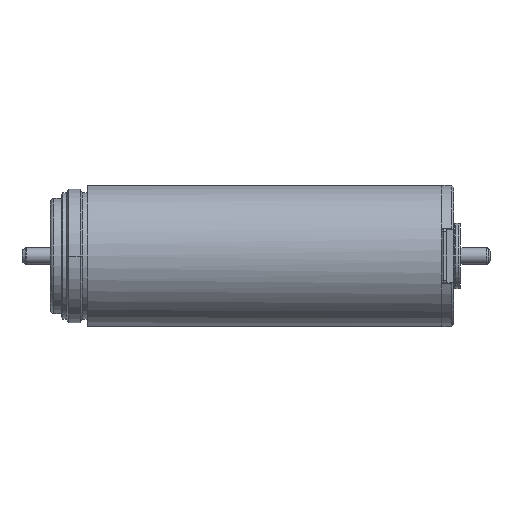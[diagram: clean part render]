
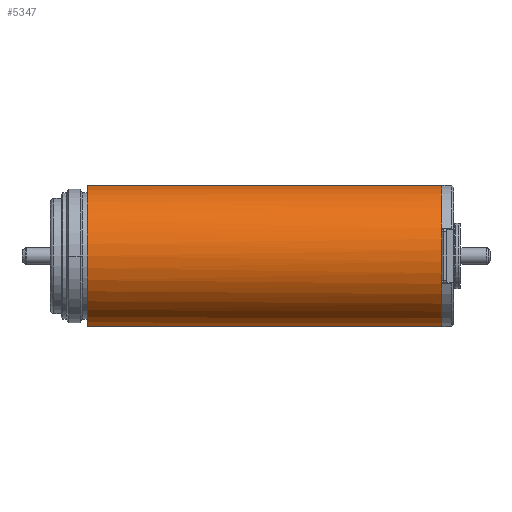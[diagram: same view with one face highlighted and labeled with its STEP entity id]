
A CAD part, front view. The second image highlights one B-rep face of the part: STEP entity #5347.
In plain terms, the highlighted cylindrical face has radius 6.45 mm (diameter 12.9 mm), a partial arc.
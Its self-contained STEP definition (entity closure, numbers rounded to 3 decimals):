
#1310=CARTESIAN_POINT('',(34.7,0.,0.));
#1311=DIRECTION('',(1.,0.,0.));
#1312=DIRECTION('',(0.,-0.919,0.394));
#1313=AXIS2_PLACEMENT_3D('',#1310,#1311,#1312);
#1444=CARTESIAN_POINT('',(34.7,0.,0.));
#1445=DIRECTION('',(1.,0.,0.));
#1446=DIRECTION('',(0.,0.,1.));
#1447=AXIS2_PLACEMENT_3D('',#1444,#1445,#1446);
#1452=CARTESIAN_POINT('',(34.7,0.,0.));
#1453=DIRECTION('',(1.,0.,0.));
#1454=DIRECTION('',(0.,-0.919,-0.394));
#1455=AXIS2_PLACEMENT_3D('',#1452,#1453,#1454);
#1460=DIRECTION('',(-1.,0.,0.));
#1461=VECTOR('',#1460,32.35);
#1462=CARTESIAN_POINT('',(34.7,0.,-6.45));
#1463=LINE('',#1462,#1461);
#1467=DIRECTION('',(1.,0.,0.));
#1468=VECTOR('',#1467,32.35);
#1469=CARTESIAN_POINT('',(2.35,0.,6.45));
#1470=LINE('',#1469,#1468);
#1482=CARTESIAN_POINT('',(2.35,0.,0.));
#1483=DIRECTION('',(1.,0.,0.));
#1484=DIRECTION('',(0.,0.,1.));
#1485=AXIS2_PLACEMENT_3D('',#1482,#1483,#1484);
#3821=CARTESIAN_POINT('',(2.35,0.,-6.45));
#3822=CARTESIAN_POINT('',(2.35,0.,6.45));
#3823=VERTEX_POINT('',#3821);
#3824=VERTEX_POINT('',#3822);
#4111=CARTESIAN_POINT('',(34.7,0.,6.45));
#4112=CARTESIAN_POINT('',(34.7,-5.929,2.539));
#4113=VERTEX_POINT('',#4111);
#4114=VERTEX_POINT('',#4112);
#4115=CARTESIAN_POINT('',(34.7,-5.929,-2.539));
#4116=CARTESIAN_POINT('',(34.7,0.,-6.45));
#4117=VERTEX_POINT('',#4115);
#4118=VERTEX_POINT('',#4116);
#5333=CARTESIAN_POINT('',(2.9,0.,0.));
#5334=DIRECTION('',(1.,0.,0.));
#5335=DIRECTION('',(0.,0.,-1.));
#5336=AXIS2_PLACEMENT_3D('',#5333,#5334,#5335);
#5337=CYLINDRICAL_SURFACE('',#5336,6.45);
#5338=ORIENTED_EDGE('',*,*,#5324,.T.);
#5339=ORIENTED_EDGE('',*,*,#5236,.T.);
#5340=ORIENTED_EDGE('',*,*,#5318,.T.);
#5341=ORIENTED_EDGE('',*,*,#5316,.T.);
#5343=ORIENTED_EDGE('',*,*,#5342,.F.);
#5344=ORIENTED_EDGE('',*,*,#5326,.T.);
#5345=EDGE_LOOP('',(#5338,#5339,#5340,#5341,#5343,#5344));
#5346=FACE_OUTER_BOUND('',#5345,.F.);
#5347=ADVANCED_FACE('',(#5346),#5337,.T.);
#1314=CIRCLE('',#1313,6.45);
#1448=CIRCLE('',#1447,6.45);
#1456=CIRCLE('',#1455,6.45);
#1486=CIRCLE('',#1485,6.45);
#5236=EDGE_CURVE('',#4114,#4117,#1314,.T.);
#5316=EDGE_CURVE('',#4118,#3823,#1463,.T.);
#5318=EDGE_CURVE('',#4117,#4118,#1456,.T.);
#5324=EDGE_CURVE('',#4113,#4114,#1448,.T.);
#5326=EDGE_CURVE('',#3824,#4113,#1470,.T.);
#5342=EDGE_CURVE('',#3824,#3823,#1486,.T.);
